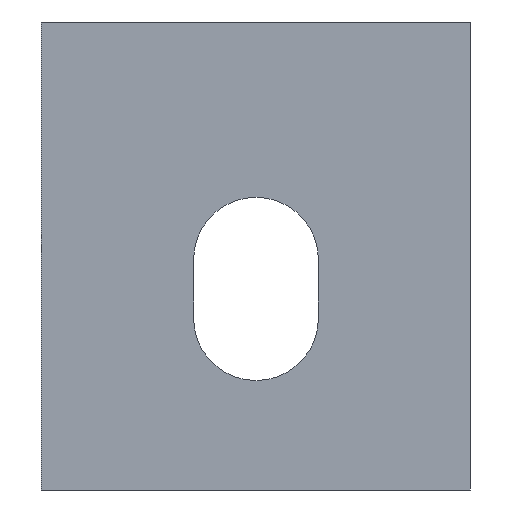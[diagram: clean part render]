
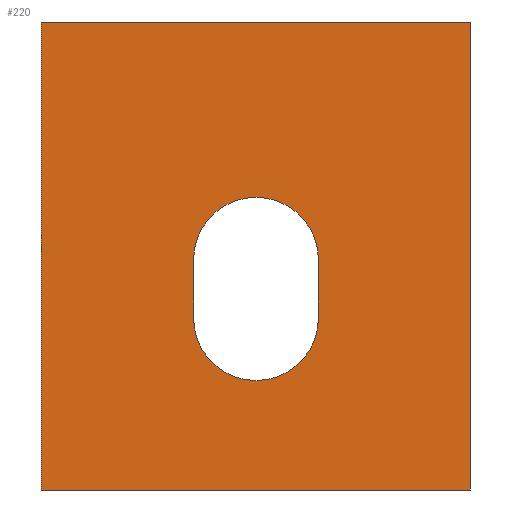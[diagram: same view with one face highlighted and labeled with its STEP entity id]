
A CAD part, left-side view. The second image highlights one B-rep face of the part: STEP entity #220.
In plain terms, the highlighted planar face has unit normal (-1, 0, 0).
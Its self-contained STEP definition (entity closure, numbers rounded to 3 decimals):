
#13 = FACE_OUTER_BOUND ( 'NONE', #565, .T. ) ;
#28 = CARTESIAN_POINT ( 'NONE',  ( -3., -4.8, -12.187 ) ) ;
#36 = DIRECTION ( 'NONE',  ( -1., 0., 0. ) ) ;
#57 = FACE_BOUND ( 'NONE', #99, .T. ) ;
#58 = ORIENTED_EDGE ( 'NONE', *, *, #270, .F. ) ;
#68 = CARTESIAN_POINT ( 'NONE',  ( -3., -8., -5.987 ) ) ;
#83 = LINE ( 'NONE', #595, #611 ) ;
#85 = VERTEX_POINT ( 'NONE', #296 ) ;
#87 = CARTESIAN_POINT ( 'NONE',  ( -3., -19., 3. ) ) ;
#89 = VERTEX_POINT ( 'NONE', #209 ) ;
#93 = ORIENTED_EDGE ( 'NONE', *, *, #534, .F. ) ;
#99 = EDGE_LOOP ( 'NONE', ( #414, #137, #144, #93, #429 ) ) ;
#127 = CARTESIAN_POINT ( 'NONE',  ( -3., -19., 0. ) ) ;
#130 = LINE ( 'NONE', #524, #578 ) ;
#134 = DIRECTION ( 'NONE',  ( 0., 0., -1. ) ) ;
#135 = LINE ( 'NONE', #87, #211 ) ;
#137 = ORIENTED_EDGE ( 'NONE', *, *, #416, .F. ) ;
#143 = LINE ( 'NONE', #189, #172 ) ;
#144 = ORIENTED_EDGE ( 'NONE', *, *, #148, .F. ) ;
#148 = EDGE_CURVE ( 'NONE', #85, #372, #403, .T. ) ;
#169 = LINE ( 'NONE', #176, #522 ) ;
#172 = VECTOR ( 'NONE', #237, 1000. ) ;
#175 = VERTEX_POINT ( 'NONE', #28 ) ;
#176 = CARTESIAN_POINT ( 'NONE',  ( -3., 3., -21. ) ) ;
#183 = CIRCLE ( 'NONE', #468, 3.2 ) ;
#189 = CARTESIAN_POINT ( 'NONE',  ( -3., -11.2, -12.187 ) ) ;
#209 = CARTESIAN_POINT ( 'NONE',  ( -3., -4.8, -9.187 ) ) ;
#210 = DIRECTION ( 'NONE',  ( 0., -1., 0. ) ) ;
#211 = VECTOR ( 'NONE', #250, 1000. ) ;
#212 = CARTESIAN_POINT ( 'NONE',  ( -3., -19., -21. ) ) ;
#220 = ADVANCED_FACE ( 'NONE', ( #57, #13 ), #452, .F. ) ;
#222 = DIRECTION ( 'NONE',  ( 0., 0., -1. ) ) ;
#237 = DIRECTION ( 'NONE',  ( 0., 0., 1. ) ) ;
#239 = CIRCLE ( 'NONE', #478, 3.2 ) ;
#250 = DIRECTION ( 'NONE',  ( 0., -1., 0. ) ) ;
#270 = EDGE_CURVE ( 'NONE', #325, #479, #135, .T. ) ;
#281 = EDGE_CURVE ( 'NONE', #344, #479, #568, .T. ) ;
#286 = DIRECTION ( 'NONE',  ( 0., 0., -1. ) ) ;
#296 = CARTESIAN_POINT ( 'NONE',  ( -3., -11.2, -9.187 ) ) ;
#298 = DIRECTION ( 'NONE',  ( -1., 0., 0. ) ) ;
#303 = CARTESIAN_POINT ( 'NONE',  ( -3., -19., 0. ) ) ;
#313 = CARTESIAN_POINT ( 'NONE',  ( -3., 3., -21. ) ) ;
#318 = DIRECTION ( 'NONE',  ( 0., 0., 1. ) ) ;
#324 = ORIENTED_EDGE ( 'NONE', *, *, #281, .T. ) ;
#325 = VERTEX_POINT ( 'NONE', #397 ) ;
#332 = VECTOR ( 'NONE', #583, 1000. ) ;
#344 = VERTEX_POINT ( 'NONE', #212 ) ;
#368 = CARTESIAN_POINT ( 'NONE',  ( -3., -8., -9.187 ) ) ;
#372 = VERTEX_POINT ( 'NONE', #68 ) ;
#374 = VERTEX_POINT ( 'NONE', #491 ) ;
#397 = CARTESIAN_POINT ( 'NONE',  ( -3., 3., 3. ) ) ;
#402 = DIRECTION ( 'NONE',  ( 1., 0., 0. ) ) ;
#403 = CIRCLE ( 'NONE', #407, 3.2 ) ;
#406 = DIRECTION ( 'NONE',  ( 0., 0., 1. ) ) ;
#407 = AXIS2_PLACEMENT_3D ( 'NONE', #487, #298, #406 ) ;
#408 = CARTESIAN_POINT ( 'NONE',  ( -3., -8., -12.187 ) ) ;
#414 = ORIENTED_EDGE ( 'NONE', *, *, #523, .F. ) ;
#416 = EDGE_CURVE ( 'NONE', #372, #89, #239, .T. ) ;
#419 = EDGE_CURVE ( 'NONE', #175, #374, #183, .T. ) ;
#426 = EDGE_CURVE ( 'NONE', #325, #603, #169, .T. ) ;
#429 = ORIENTED_EDGE ( 'NONE', *, *, #419, .F. ) ;
#452 = PLANE ( 'NONE',  #464 ) ;
#464 = AXIS2_PLACEMENT_3D ( 'NONE', #127, #402, #222 ) ;
#468 = AXIS2_PLACEMENT_3D ( 'NONE', #408, #605, #318 ) ;
#478 = AXIS2_PLACEMENT_3D ( 'NONE', #368, #36, #553 ) ;
#479 = VERTEX_POINT ( 'NONE', #526 ) ;
#487 = CARTESIAN_POINT ( 'NONE',  ( -3., -8., -9.187 ) ) ;
#491 = CARTESIAN_POINT ( 'NONE',  ( -3., -11.2, -12.187 ) ) ;
#522 = VECTOR ( 'NONE', #134, 1000. ) ;
#523 = EDGE_CURVE ( 'NONE', #89, #175, #130, .T. ) ;
#524 = CARTESIAN_POINT ( 'NONE',  ( -3., -4.8, -9.187 ) ) ;
#526 = CARTESIAN_POINT ( 'NONE',  ( -3., -19., 3. ) ) ;
#534 = EDGE_CURVE ( 'NONE', #374, #85, #143, .T. ) ;
#536 = ORIENTED_EDGE ( 'NONE', *, *, #601, .T. ) ;
#553 = DIRECTION ( 'NONE',  ( 0., 0., 1. ) ) ;
#565 = EDGE_LOOP ( 'NONE', ( #324, #58, #575, #536 ) ) ;
#568 = LINE ( 'NONE', #303, #332 ) ;
#575 = ORIENTED_EDGE ( 'NONE', *, *, #426, .T. ) ;
#578 = VECTOR ( 'NONE', #286, 1000. ) ;
#583 = DIRECTION ( 'NONE',  ( 0., 0., 1. ) ) ;
#595 = CARTESIAN_POINT ( 'NONE',  ( -3., -19., -21. ) ) ;
#601 = EDGE_CURVE ( 'NONE', #603, #344, #83, .T. ) ;
#603 = VERTEX_POINT ( 'NONE', #313 ) ;
#605 = DIRECTION ( 'NONE',  ( -1., 0., 0. ) ) ;
#611 = VECTOR ( 'NONE', #210, 1000. ) ;
